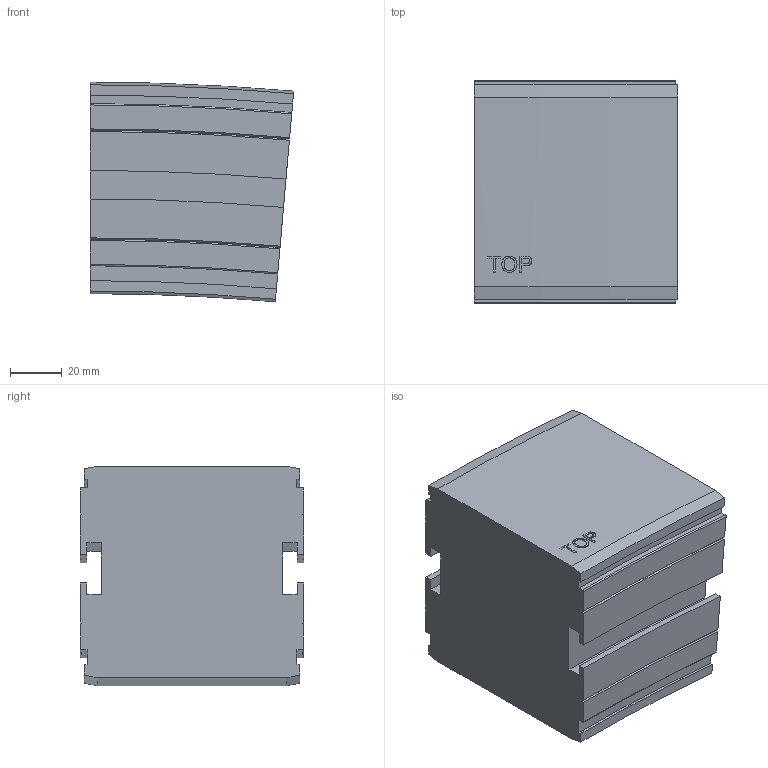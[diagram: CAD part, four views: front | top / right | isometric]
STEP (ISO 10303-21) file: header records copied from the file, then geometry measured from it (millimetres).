
FILE_DESCRIPTION((''),'2;1');
FILE_NAME('C:\Vault Klient\Projekt\Koncept konstruktion\Serie 830 Balk\830-5650_DOWN.stp','2009-11-27T10:56:26',('Mathias'),(''),'Autodesk Inventor 2010','Autodesk Inventor 2010','');
FILE_SCHEMA(('AUTOMOTIVE_DESIGN { 1 0 10303 214 1 1 1 1 }'));
Length unit declared in the file: millimetre
Products named in the file (1): 830-5650_DOWN
Bounding box: 78.4 x 86 x 84.61 mm (x, y, z)
Volume: 498119.5 mm3; surface area: 43931 mm2
Topology: 1 solids, 1 shells, 93 faces, 258 edges, 172 vertices
Faces by surface type: plane 40, cylinder 23, bspline 14, cone 12, torus 4
Entity records: 3464 total; most frequent: CARTESIAN_POINT 1029, ORIENTED_EDGE 516, DIRECTION 472, EDGE_CURVE 258, VERTEX_POINT 172, AXIS2_PLACEMENT_3D 162, VECTOR 148, LINE 148
